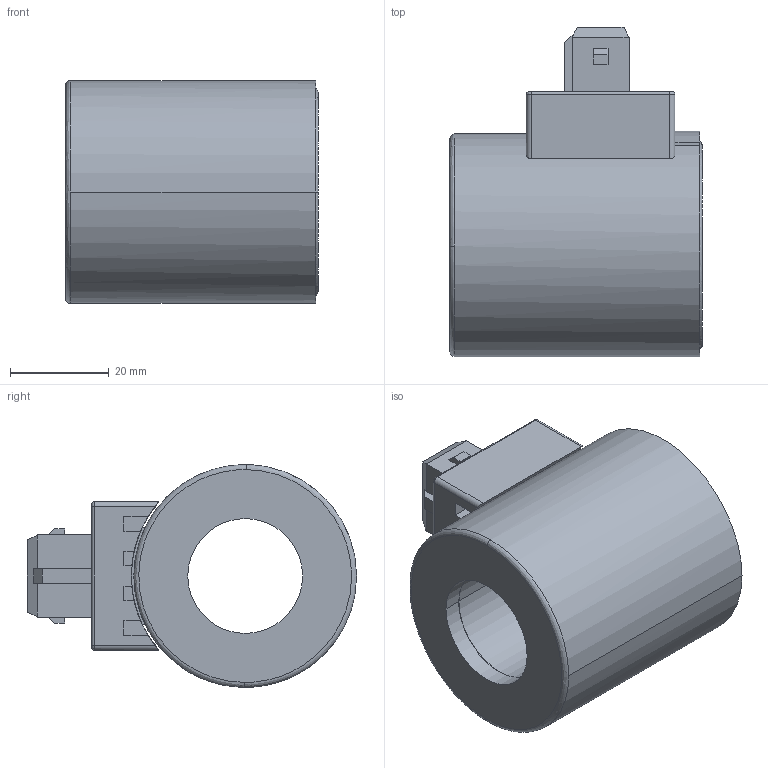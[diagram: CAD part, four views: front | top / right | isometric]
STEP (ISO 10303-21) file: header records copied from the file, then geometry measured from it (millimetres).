
FILE_DESCRIPTION (( 'STEP AP214' ), '1' );
FILE_NAME ('WJE45_23x50.STEP', '2017-03-02T12:42:26', ( '' ), ( '' ), 'SwSTEP 2.0', 'SolidWorks 2016', '' );
FILE_SCHEMA (( 'AUTOMOTIVE_DESIGN' ));
Length unit declared in the file: millimetre
Products named in the file (1): WJE45_23x50
Bounding box: 51.04 x 66.5 x 45 mm (x, y, z)
Volume: 69008.5 mm3; surface area: 18727.1 mm2
Topology: 1 solids, 1 shells, 120 faces, 300 edges, 192 vertices
Faces by surface type: plane 82, cylinder 30, bspline 6, torus 2
Entity records: 23404 total; most frequent: CARTESIAN_POINT 19735, ORIENTED_EDGE 600, DIRECTION 594, EDGE_CURVE 300, LINE 212, VECTOR 212, VERTEX_POINT 192, AXIS2_PLACEMENT_3D 191
